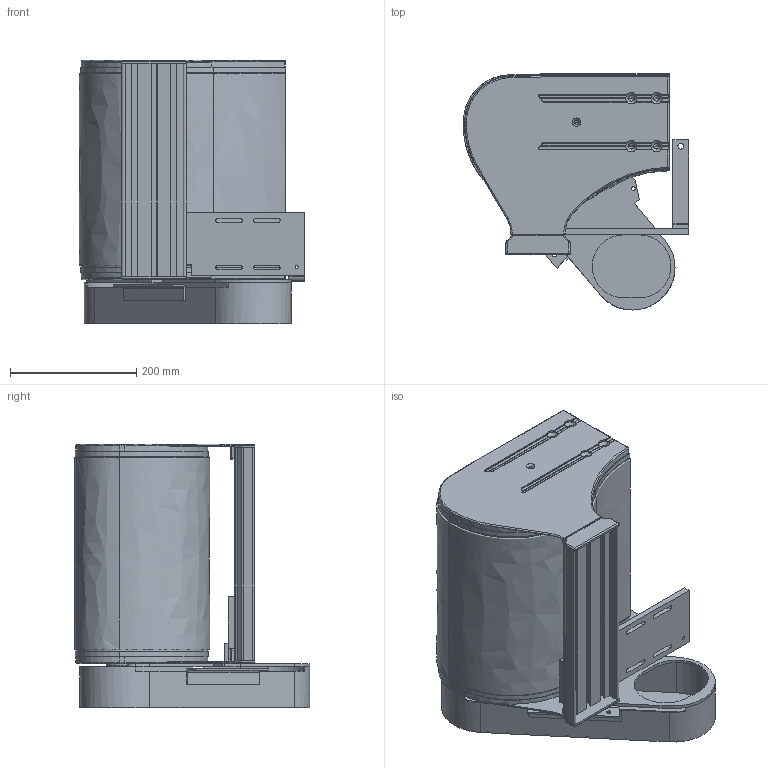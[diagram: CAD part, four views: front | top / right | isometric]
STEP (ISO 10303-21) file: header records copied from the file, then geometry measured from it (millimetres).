
FILE_DESCRIPTION (( 'STEP AP214' ), '1' );
FILE_NAME ('F2 1200 MSD20.step', '2017-04-05T06:47:39', ( '' ), ( '' ), 'SwSTEP 2.0', 'SolidWorks 2015', '' );
FILE_SCHEMA (( 'AUTOMOTIVE_DESIGN' ));
Length unit declared in the file: millimetre
Products named in the file (1): F2 1200 MSD20
Bounding box: 357.48 x 374.02 x 418 mm (x, y, z)
Volume: 21504824.1 mm3; surface area: 1028920 mm2
Topology: 8 solids, 8 shells, 821 faces, 2147 edges, 1318 vertices
Faces by surface type: cylinder 360, plane 271, torus 122, cone 40, bspline 28
Entity records: 29491 total; most frequent: CARTESIAN_POINT 7160, DIRECTION 4328, ORIENTED_EDGE 4238, EDGE_CURVE 2119, AXIS2_PLACEMENT_3D 1643, VERTEX_POINT 1318, VECTOR 1042, LINE 1042
